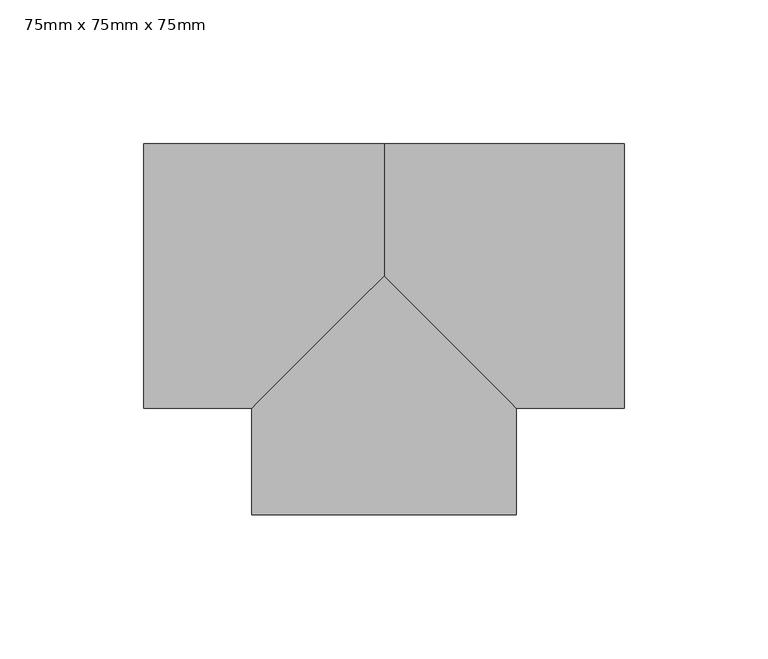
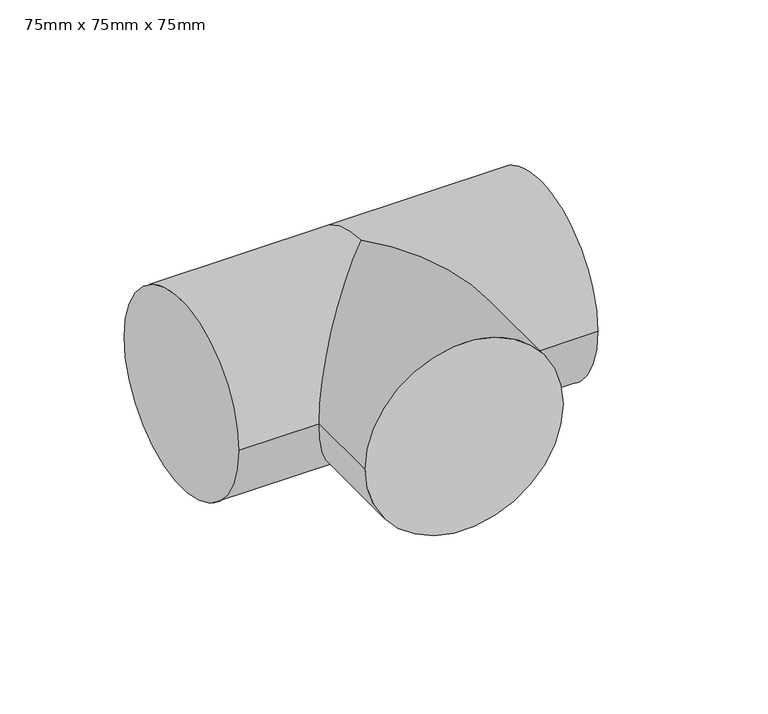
"""IFC4 building model written with IfcOpenShell, lengths in millimetres: pipe fitting geometry, PipeFitting_HTA_CPVC_Tees90° : 75mm x 75mm x 75mm."""

from ifc_helpers import new_model, si_unit, frame, origin, place, context, project, spatial, circle_curve, ellipse_curve, source, transform, mapped, element, save
from ifc_brep_helpers import plane_surface, cylinder_surface, advanced_brep


def pipe_fitting_75mm_x_75mm_x_75mm_d66b03cd(model_context):
    return source(origin(), model_context, "Body", "AdvancedBrep", [
        advanced_brep(
        [(-46.0, -83.0, 0.0), (46.0, -83.0, 0.0), (46.0, -46.0, 0.0), (0.0, 0.0, 46.0), (-46.0, -46.0, 0.0), (0.0, 0.0, -46.0), (-83.5, -46.0, 0.0), (-83.5, 46.0, 0.0), (0.0, 46.0, 0.0), (83.5, -46.0, 0.0), (83.5, 46.0, 0.0)],
        [
            (0, 1, circle_curve(frame((0.0, -83.0, 0.0), z_axis=(0.0, -1.0, 0.0), x_axis=(1.0, 0.0, 0.0)), 46.0)),
            (1, 0, circle_curve(frame((0.0, -83.0, 0.0), z_axis=(0.0, -1.0, 0.0), x_axis=(1.0, 0.0, 0.0)), 46.0)),
            (1, 2),
            (2, 3, ellipse_curve(frame((0.0, 0.0, 0.0), z_axis=(-0.7071067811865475, -0.7071067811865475, 0.0), x_axis=(-0.7071067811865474, 0.7071067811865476, 0.0)), 65.0538239, 46.0)),
            (3, 4, ellipse_curve(frame((0.0, 0.0, 0.0), z_axis=(0.7071067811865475, -0.7071067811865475, 0.0), x_axis=(0.7071067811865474, 0.7071067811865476, 0.0)), 65.0538239, 46.0)),
            (4, 0),
            (4, 5, ellipse_curve(frame((0.0, 0.0, 0.0), z_axis=(0.7071067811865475, -0.7071067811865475, 0.0), x_axis=(0.7071067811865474, 0.7071067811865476, 0.0)), 65.0538239, 46.0)),
            (5, 2, ellipse_curve(frame((0.0, 0.0, 0.0), z_axis=(-0.7071067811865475, -0.7071067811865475, 0.0), x_axis=(-0.7071067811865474, 0.7071067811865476, 0.0)), 65.0538239, 46.0)),
            (6, 7, circle_curve(frame((-83.5, 0.0, 0.0), z_axis=(-1.0, 0.0, 0.0), x_axis=(0.0, 1.0, 0.0)), 46.0)),
            (7, 6, circle_curve(frame((-83.5, 0.0, 0.0), z_axis=(-1.0, 0.0, 0.0), x_axis=(0.0, 1.0, 0.0)), 46.0)),
            (6, 4),
            (3, 8, circle_curve(frame((0.0, 0.0, 0.0), z_axis=(-1.0, 0.0, 0.0), x_axis=(0.0, 1.0, 0.0)), 46.0)),
            (8, 7),
            (8, 5, circle_curve(frame((0.0, 0.0, 0.0), z_axis=(-1.0, 0.0, 0.0), x_axis=(0.0, 1.0, 0.0)), 46.0)),
            (9, 10, circle_curve(frame((83.5, 0.0, 0.0), z_axis=(1.0, 0.0, 0.0), x_axis=(0.0, 1.0, 0.0)), 46.0)),
            (10, 9, circle_curve(frame((83.5, 0.0, 0.0), z_axis=(1.0, 0.0, 0.0), x_axis=(0.0, 1.0, 0.0)), 46.0)),
            (10, 8),
            (2, 9),
        ],
        [
            plane_surface(frame((0.0, -83.0, 0.0), z_axis=(0.0, -1.0, 0.0), x_axis=(0.0, 0.0, 1.0))),
            cylinder_surface(frame((0.0, 0.0, 0.0), z_axis=(0.0, 1.0, 0.0), x_axis=(1.0, 0.0, 0.0)), 46.0),
            plane_surface(frame((-83.5, 0.0, 0.0), z_axis=(-1.0, 0.0, 0.0), x_axis=(0.0, 0.0, 1.0))),
            cylinder_surface(frame((-83.5, 0.0, 0.0), z_axis=(-1.0, 0.0, 0.0), x_axis=(0.0, 1.0, 0.0)), 46.0),
            plane_surface(frame((83.5, 0.0, 0.0), z_axis=(1.0, 0.0, 0.0), x_axis=(0.0, 0.0, 1.0))),
            cylinder_surface(frame((0.0, 0.0, 0.0), z_axis=(-1.0, 0.0, 0.0), x_axis=(0.0, 1.0, 0.0)), 46.0),
        ],
        [
            (0, [[1, 2]]),
            (1, [[-2, 3, 4, 5, 6]]),
            (1, [[-1, -6, 7, 8, -3]]),
            (2, [[9, 10]]),
            (3, [[-9, 11, -5, 12, 13]]),
            (3, [[-10, -13, 14, -7, -11]]),
            (4, [[15, 16]]),
            (5, [[-16, 17, -12, -4, 18]]),
            (5, [[-15, -18, -8, -14, -17]]),
        ],
    ),
    ])


if __name__ == "__main__":
    model = new_model("IFC4")
    model_context = context("Model", 3, world=origin())
    ifc_project = project(units=[si_unit("LENGTHUNIT", "METRE", prefix="MILLI")], contexts=[model_context])
    site = spatial("IfcSite", under=ifc_project)
    building = spatial("IfcBuilding", under=site)
    placement = place(None, origin())
    pipe_fitting_75mm_x_75mm_x_75mm_shape = pipe_fitting_75mm_x_75mm_x_75mm_d66b03cd(model_context)
    element("IfcPipeFitting", 1, ObjectType="PipeFitting_HTA_CPVC_Tees90° : 75mm x 75mm x 75mm", at=placement, inside=building, context=model_context, shape_type="MappedRepresentation", body=[
        mapped(pipe_fitting_75mm_x_75mm_x_75mm_shape, transform((0.0, 0.0, 0.0), x_axis=(1.0, 0.0, 0.0), y_axis=(0.0, 1.0, 0.0), z_axis=(0.0, 0.0, 1.0))),
    ])
    save(model, "model.ifc")
